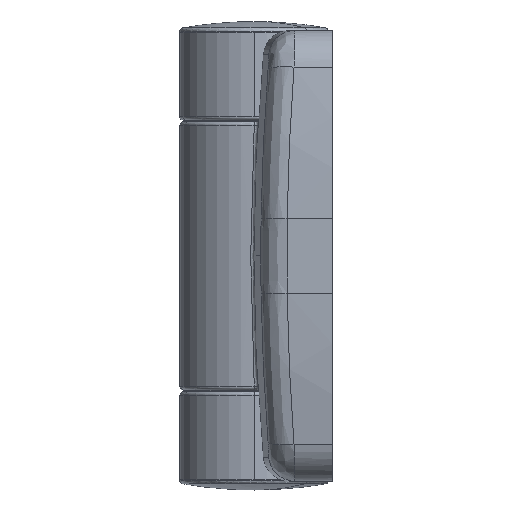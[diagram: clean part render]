
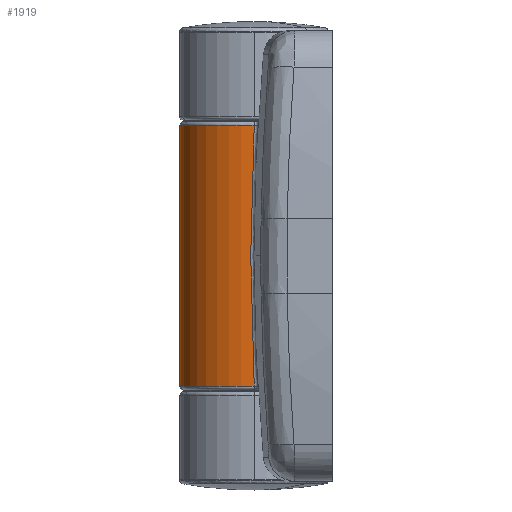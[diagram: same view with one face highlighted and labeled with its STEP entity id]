
A CAD part, left-side view. The second image highlights one B-rep face of the part: STEP entity #1919.
In plain terms, the highlighted cylindrical face has radius 10 mm (diameter 20 mm), a partial arc.
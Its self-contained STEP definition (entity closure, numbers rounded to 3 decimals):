
#1919=ADVANCED_FACE('NONE',(#3938),#3939,.T.);
#3938=FACE_OUTER_BOUND('',#9709,.T.);
#3939=CYLINDRICAL_SURFACE('',#9710,10.0);
#9709=EDGE_LOOP('',(#15192,#15193,#15194,#15195,#15196,#15197));
#9710=AXIS2_PLACEMENT_3D('',#15198,#15199,#15200);
#15192=ORIENTED_EDGE('',*,*,#18254,.T.);
#15193=ORIENTED_EDGE('',*,*,#18290,.T.);
#15194=ORIENTED_EDGE('',*,*,#18291,.T.);
#15195=ORIENTED_EDGE('',*,*,#18292,.T.);
#15196=ORIENTED_EDGE('',*,*,#18245,.F.);
#15197=ORIENTED_EDGE('',*,*,#18293,.F.);
#15198=CARTESIAN_POINT('',(0.,0.,-30.0));
#15199=DIRECTION('',(0.0,0.,-1.0));
#15200=DIRECTION('',(1.0,0.0,0.0));
#18245=EDGE_CURVE('NONE',#21484,#21492,#21493,.T.);
#18254=EDGE_CURVE('NONE',#21507,#21498,#21508,.T.);
#18290=EDGE_CURVE('NONE',#21498,#21567,#21568,.T.);
#18291=EDGE_CURVE('NONE',#21567,#21569,#21570,.T.);
#18292=EDGE_CURVE('NONE',#21569,#21492,#21571,.T.);
#18293=EDGE_CURVE('NONE',#21507,#21484,#21572,.T.);
#21484=VERTEX_POINT('NONE',#28049);
#21492=VERTEX_POINT('NONE',#28082);
#21493=CIRCLE('',#28083,10.0);
#21498=VERTEX_POINT('NONE',#28098);
#21507=VERTEX_POINT('NONE',#28120);
#21508=CIRCLE('',#28121,10.0);
#21567=VERTEX_POINT('NONE',#28211);
#21568=LINE('',#28212,#28213);
#21569=VERTEX_POINT('NONE',#28214);
#21570=B_SPLINE_CURVE_WITH_KNOTS('',3,(#28215,#28216,#28217,#28218,#28219),.UNSPECIFIED.,.F.,.F.,(4,1,4),(0.0,0.5,1.0),.UNSPECIFIED.);
#21571=LINE('',#28220,#28221);
#21572=LINE('',#28222,#28223);
#28049=CARTESIAN_POINT('',(10.0,0.,17.5));
#28082=CARTESIAN_POINT('',(-10.0,0.,17.5));
#28083=AXIS2_PLACEMENT_3D('',#31466,#31467,#31468);
#28098=CARTESIAN_POINT('',(-10.0,0.,-17.5));
#28120=CARTESIAN_POINT('',(10.0,0.,-17.5));
#28121=AXIS2_PLACEMENT_3D('',#31479,#31480,#31481);
#28211=CARTESIAN_POINT('',(-10.,0.,-17.023));
#28212=CARTESIAN_POINT('',(-10.0,0.,-30.0));
#28213=VECTOR('',#31535,1000.0);
#28214=CARTESIAN_POINT('',(-10.,0.,17.023));
#28215=CARTESIAN_POINT('',(-10.,0.,-17.023));
#28216=CARTESIAN_POINT('',(-10.0,0.307,-11.349));
#28217=CARTESIAN_POINT('',(-9.979,0.613,0.));
#28218=CARTESIAN_POINT('',(-10.0,0.307,11.349));
#28219=CARTESIAN_POINT('',(-10.,0.,17.023));
#28220=CARTESIAN_POINT('',(-10.0,0.,-30.0));
#28221=VECTOR('',#31536,1000.0);
#28222=CARTESIAN_POINT('',(10.0,0.,-30.0));
#28223=VECTOR('',#31537,1000.0);
#31466=CARTESIAN_POINT('',(0.,0.,17.5));
#31467=DIRECTION('',(0.,0.,1.0));
#31468=DIRECTION('',(-1.0,0.,0.));
#31479=CARTESIAN_POINT('',(0.,0.,-17.5));
#31480=DIRECTION('',(0.0,0.,1.0));
#31481=DIRECTION('',(1.0,0.0,0.0));
#31535=DIRECTION('',(0.,0.,1.0));
#31536=DIRECTION('',(0.,0.,1.0));
#31537=DIRECTION('',(0.,0.,1.0));
